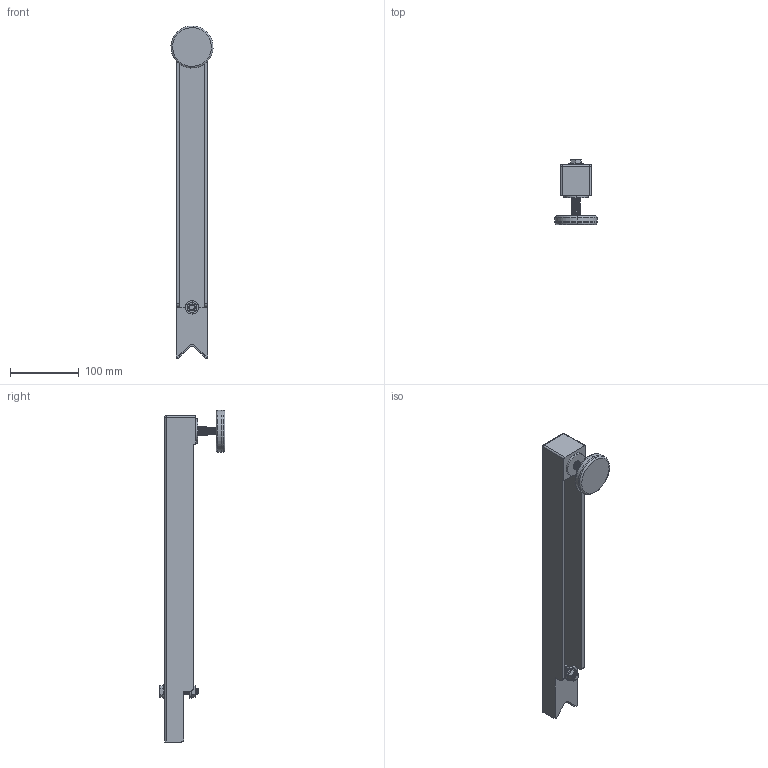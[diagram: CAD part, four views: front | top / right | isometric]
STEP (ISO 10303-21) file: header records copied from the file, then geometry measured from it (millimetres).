
FILE_DESCRIPTION (( 'STEP AP214' ), '1' );
FILE_NAME ('Floor Stand Leg with Leveling Foot, MOBL4X4-FIXD.STEP', '2017-07-19T13:52:13', ( '' ), ( '' ), 'SwSTEP 2.0', 'SolidWorks 2017', '' );
FILE_SCHEMA (( 'AUTOMOTIVE_DESIGN' ));
Length unit declared in the file: inch
Products named in the file (6): Leveling Mount, 30452_1942K75; Locknut, 30369_93776A461; Cap Screw, 30368_92198A632; Flat Washer, 30372_96659A108; Leg, MOBL4X4-( ); Floor Stand Leg with Leveling Foot, MOBL4X4-FIXD
Assembly tree (5 placements, depth 2):
  Floor Stand Leg with Leveling Foot, MOBL4X4-FIXD
    Leg, MOBL4X4-( )
    Flat Washer, 30372_96659A108
    Cap Screw, 30368_92198A632
    Locknut, 30369_93776A461
    Leveling Mount, 30452_1942K75
Bounding box: 60.88 x 95.31 x 481.16 mm (x, y, z)
Volume: 329890 mm3; surface area: 146202.9 mm2
Topology: 6 solids, 6 shells, 402 faces, 1138 edges, 747 vertices
Faces by surface type: cylinder 215, plane 123, bspline 33, cone 25, torus 4, sphere 2
Entity records: 66227 total; most frequent: CARTESIAN_POINT 57070, ORIENTED_EDGE 2272, DIRECTION 1449, EDGE_CURVE 1136, VERTEX_POINT 747, VECTOR 489, LINE 489, AXIS2_PLACEMENT_3D 480
